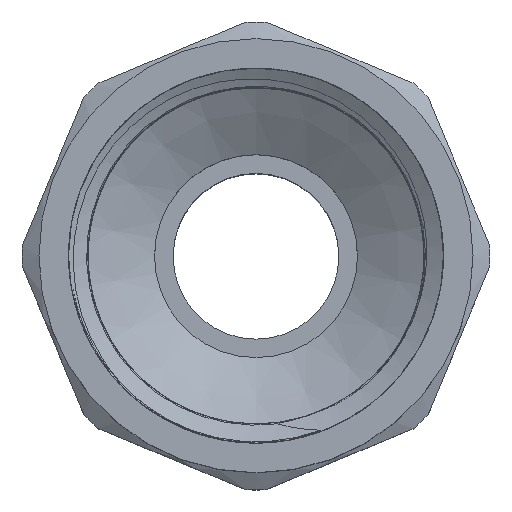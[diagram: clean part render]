
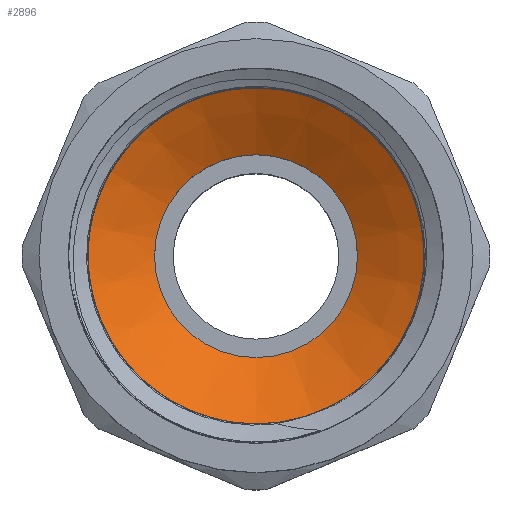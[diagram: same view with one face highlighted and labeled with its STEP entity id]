
A CAD part, top view. The second image highlights one B-rep face of the part: STEP entity #2896.
In plain terms, the highlighted conical face has half-angle 60 degrees and reference radius 12.812 mm.
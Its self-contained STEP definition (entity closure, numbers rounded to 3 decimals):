
#444=FACE_OUTER_BOUND('',#617,.T.);
#617=EDGE_LOOP('',(#2623,#2624,#2625,#2626,#2627,#2628));
#806=LINE('',#5860,#965);
#965=VECTOR('',#3794,12.813);
#1109=CIRCLE('',#3163,9.);
#1110=CIRCLE('',#3164,9.);
#1111=CIRCLE('',#3166,16.625);
#1112=CIRCLE('',#3167,16.625);
#1384=VERTEX_POINT('',#5853);
#1385=VERTEX_POINT('',#5855);
#1386=VERTEX_POINT('',#5859);
#1387=VERTEX_POINT('',#5861);
#1805=EDGE_CURVE('',#1385,#1384,#1109,.T.);
#1806=EDGE_CURVE('',#1384,#1385,#1110,.T.);
#1807=EDGE_CURVE('',#1384,#1386,#806,.T.);
#1808=EDGE_CURVE('',#1387,#1386,#1111,.T.);
#1809=EDGE_CURVE('',#1386,#1387,#1112,.T.);
#2623=ORIENTED_EDGE('',*,*,#1805,.T.);
#2624=ORIENTED_EDGE('',*,*,#1807,.T.);
#2625=ORIENTED_EDGE('',*,*,#1808,.F.);
#2626=ORIENTED_EDGE('',*,*,#1809,.F.);
#2627=ORIENTED_EDGE('',*,*,#1807,.F.);
#2628=ORIENTED_EDGE('',*,*,#1806,.T.);
#2761=CONICAL_SURFACE('',#3165,12.813,1.047);
#2896=ADVANCED_FACE('',(#444),#2761,.F.);
#3163=AXIS2_PLACEMENT_3D('',#5856,#3788,#3789);
#3164=AXIS2_PLACEMENT_3D('',#5857,#3790,#3791);
#3165=AXIS2_PLACEMENT_3D('',#5858,#3792,#3793);
#3166=AXIS2_PLACEMENT_3D('',#5862,#3795,#3796);
#3167=AXIS2_PLACEMENT_3D('',#5863,#3797,#3798);
#3788=DIRECTION('center_axis',(0.,0.,-1.));
#3789=DIRECTION('ref_axis',(1.,0.,0.));
#3790=DIRECTION('center_axis',(0.,0.,-1.));
#3791=DIRECTION('ref_axis',(1.,0.,0.));
#3792=DIRECTION('center_axis',(0.,0.,1.));
#3793=DIRECTION('ref_axis',(0.,-1.,0.));
#3794=DIRECTION('',(0.,0.866,0.5));
#3795=DIRECTION('center_axis',(0.,0.,-1.));
#3796=DIRECTION('ref_axis',(1.,0.,0.));
#3797=DIRECTION('center_axis',(0.,0.,-1.));
#3798=DIRECTION('ref_axis',(1.,0.,0.));
#5853=CARTESIAN_POINT('',(0.,9.,35.898));
#5855=CARTESIAN_POINT('',(0.,-9.,35.898));
#5856=CARTESIAN_POINT('Origin',(0.,0.,35.898));
#5857=CARTESIAN_POINT('Origin',(0.,0.,35.898));
#5858=CARTESIAN_POINT('Origin',(0.,0.,38.099));
#5859=CARTESIAN_POINT('',(0.,16.625,40.3));
#5860=CARTESIAN_POINT('',(0.,12.813,38.099));
#5861=CARTESIAN_POINT('',(0.,-16.625,40.3));
#5862=CARTESIAN_POINT('Origin',(0.,0.,40.3));
#5863=CARTESIAN_POINT('Origin',(0.,0.,40.3));
